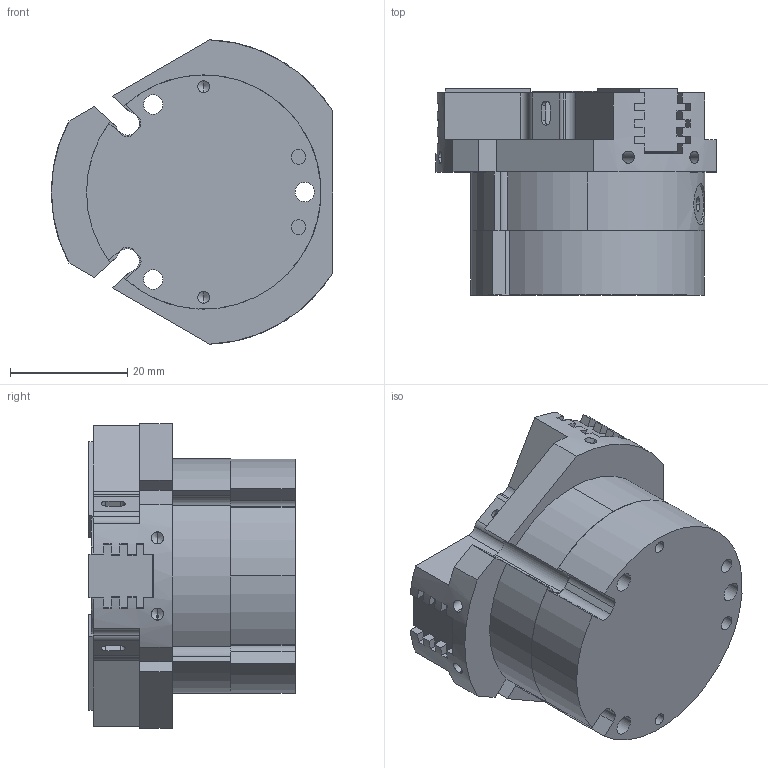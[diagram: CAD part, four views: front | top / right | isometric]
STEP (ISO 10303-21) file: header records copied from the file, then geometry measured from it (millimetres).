
FILE_DESCRIPTION (( 'STEP AP214' ), '1' );
FILE_NAME ('THN-40C-1-AS.STEP', '2021-03-09T10:34:22', ( '' ), ( '' ), 'SwSTEP 2.0', 'SolidWorks 2016', '' );
FILE_SCHEMA (( 'AUTOMOTIVE_DESIGN' ));
Length unit declared in the file: millimetre
Products named in the file (5): THN-40C-1-AS; THN-40C-1-AS-03; THN-40C-1-AS-01; THN-40A-1-AS-02; THN-40A-1-AS-04
Assembly tree (6 placements, depth 2):
  THN-40C-1-AS
    THN-40C-1-AS-01
    THN-40C-1-AS-03
    THN-40A-1-AS-04
    THN-40A-1-AS-02  x3
Bounding box: 48 x 35.2 x 51.96 mm (x, y, z)
Volume: 42912.3 mm3; surface area: 20712.3 mm2
Topology: 6 solids, 6 shells, 440 faces, 1197 edges, 758 vertices
Faces by surface type: plane 225, cylinder 147, cone 64, bspline 4
Entity records: 15313 total; most frequent: CARTESIAN_POINT 5930, DIRECTION 1849, ORIENTED_EDGE 1778, EDGE_CURVE 889, AXIS2_PLACEMENT_3D 651, VERTEX_POINT 582, VECTOR 547, LINE 547
